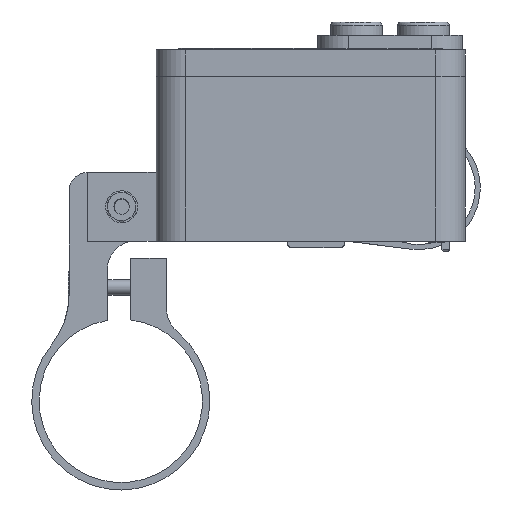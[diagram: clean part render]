
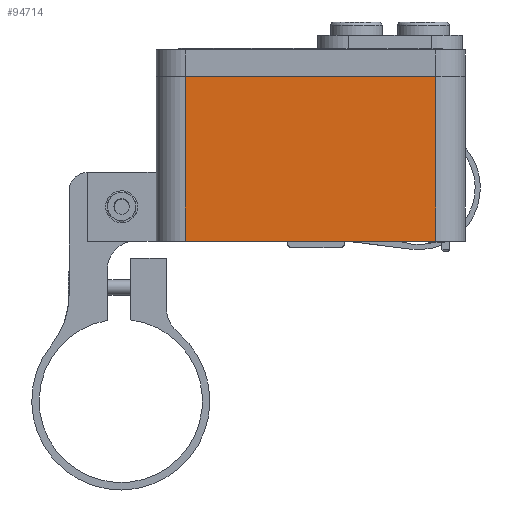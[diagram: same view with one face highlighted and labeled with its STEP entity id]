
A CAD part, left-side view. The second image highlights one B-rep face of the part: STEP entity #94714.
In plain terms, the highlighted planar face has unit normal (-1, 0, 0) as drawn and (0, 0, 1) by its records, which use the part's own axes.
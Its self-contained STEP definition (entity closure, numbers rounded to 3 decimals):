
#5822=PLANE('',#102158);
#10427=FACE_OUTER_BOUND('',#16044,.T.);
#16044=EDGE_LOOP('',(#81436,#81437,#81438,#81439));
#25003=LINE('',#165501,#35250);
#25092=LINE('',#165702,#35339);
#25135=LINE('',#165833,#35382);
#25136=LINE('',#165835,#35383);
#35250=VECTOR('',#120910,10.);
#35339=VECTOR('',#121079,10.);
#35382=VECTOR('',#121236,10.);
#35383=VECTOR('',#121239,10.);
#46503=VERTEX_POINT('',#165498);
#46504=VERTEX_POINT('',#165500);
#46575=VERTEX_POINT('',#165699);
#46576=VERTEX_POINT('',#165701);
#58514=EDGE_CURVE('',#46503,#46504,#25003,.T.);
#58616=EDGE_CURVE('',#46575,#46576,#25092,.T.);
#58677=EDGE_CURVE('',#46504,#46575,#25135,.T.);
#58678=EDGE_CURVE('',#46576,#46503,#25136,.T.);
#81436=ORIENTED_EDGE('',*,*,#58677,.F.);
#81437=ORIENTED_EDGE('',*,*,#58514,.F.);
#81438=ORIENTED_EDGE('',*,*,#58678,.F.);
#81439=ORIENTED_EDGE('',*,*,#58616,.F.);
#94714=ADVANCED_FACE('',(#10427),#5822,.T.);
#102158=AXIS2_PLACEMENT_3D('',#165834,#121237,#121238);
#120910=DIRECTION('',(-1.,0.,0.));
#121079=DIRECTION('',(1.,0.,0.));
#121236=DIRECTION('',(0.,1.,0.));
#121237=DIRECTION('center_axis',(0.,0.,1.));
#121238=DIRECTION('ref_axis',(-1.,0.,0.));
#121239=DIRECTION('',(0.,-1.,0.));
#165498=CARTESIAN_POINT('',(24.295,-8.616,30.));
#165500=CARTESIAN_POINT('',(-24.295,-8.616,30.));
#165501=CARTESIAN_POINT('',(-30.,-8.616,30.));
#165699=CARTESIAN_POINT('',(-24.295,23.387,30.));
#165701=CARTESIAN_POINT('',(24.295,23.387,30.));
#165702=CARTESIAN_POINT('',(-30.,23.387,30.));
#165833=CARTESIAN_POINT('',(-24.295,22.7,30.));
#165834=CARTESIAN_POINT('Origin',(30.,22.7,30.));
#165835=CARTESIAN_POINT('',(24.295,22.7,30.));
